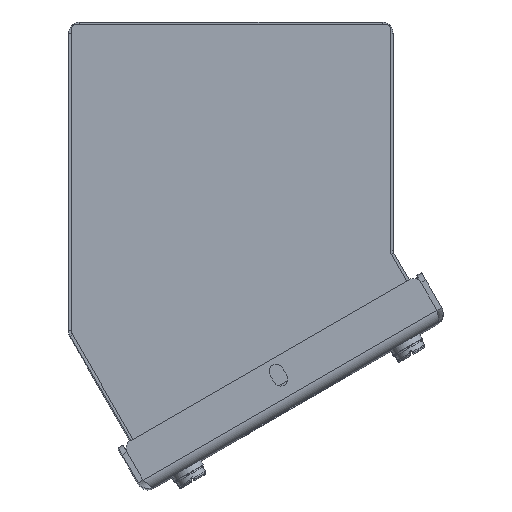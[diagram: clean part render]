
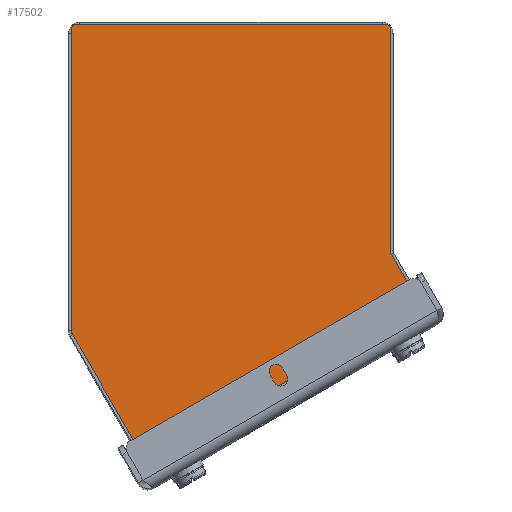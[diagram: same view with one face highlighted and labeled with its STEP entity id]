
A CAD part, top view. The second image highlights one B-rep face of the part: STEP entity #17502.
In plain terms, the highlighted planar face has unit normal (0, 0, 1) as drawn and (0, 1, 0) by its records, which use the part's own axes.
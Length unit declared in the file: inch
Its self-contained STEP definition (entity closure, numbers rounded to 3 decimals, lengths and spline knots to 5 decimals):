
#16811=CARTESIAN_POINT('',(1.695,2.5003,4.96256));
#16812=DIRECTION('',(0.,1.,0.));
#16813=DIRECTION('',(1.,0.,0.));
#16814=AXIS2_PLACEMENT_3D('',#16811,#16812,#16813);
#16819=DIRECTION('',(0.5,0.,0.866));
#16820=VECTOR('',#16819,0.69217);
#16821=CARTESIAN_POINT('',(1.74036,2.5003,7.41018));
#16822=LINE('',#16821,#16820);
#16826=CARTESIAN_POINT('',(2.0518,2.5003,8.02962));
#16827=DIRECTION('',(0.,1.,0.));
#16828=DIRECTION('',(0.5,0.,0.866));
#16829=AXIS2_PLACEMENT_3D('',#16826,#16827,#16828);
#16834=DIRECTION('',(0.5,0.,0.866));
#16835=VECTOR('',#16834,0.09);
#16836=CARTESIAN_POINT('',(1.43704,2.5003,8.32682));
#16837=LINE('',#16836,#16835);
#16841=DIRECTION('',(0.5,0.,0.866));
#16842=VECTOR('',#16841,0.09);
#16843=CARTESIAN_POINT('',(-0.29573,2.5003,9.32723));
#16844=LINE('',#16843,#16842);
#16848=CARTESIAN_POINT('',(-0.86049,2.5003,9.71103));
#16849=DIRECTION('',(0.,1.,0.));
#16850=DIRECTION('',(-0.866,0.,0.5));
#16851=AXIS2_PLACEMENT_3D('',#16848,#16849,#16850);
#16856=DIRECTION('',(0.5,0.,0.866));
#16857=VECTOR('',#16856,1.66902);
#16858=CARTESIAN_POINT('',(-1.72964,2.5003,8.28562));
#16859=LINE('',#16858,#16857);
#16863=CARTESIAN_POINT('',(-1.695,2.5003,8.26562));
#16864=DIRECTION('',(0.,1.,0.));
#16865=DIRECTION('',(-1.,0.,0.));
#16866=AXIS2_PLACEMENT_3D('',#16863,#16864,#16865);
#16871=CARTESIAN_POINT('',(-1.695,2.5003,4.96256));
#16872=DIRECTION('',(0.,1.,0.));
#16873=DIRECTION('',(0.,0.,-1.));
#16874=AXIS2_PLACEMENT_3D('',#16871,#16872,#16873);
#16879=DIRECTION('',(1.,0.,0.));
#16880=VECTOR('',#16879,3.39);
#16881=CARTESIAN_POINT('',(-1.695,2.5003,4.92256));
#16882=LINE('',#16881,#16880);
#16907=DIRECTION('',(0.,0.,1.));
#16908=VECTOR('',#16907,3.30306);
#16909=CARTESIAN_POINT('',(-1.735,2.5003,4.96256));
#16910=LINE('',#16909,#16908);
#16949=DIRECTION('',(0.866,0.,-0.5));
#16950=VECTOR('',#16949,0.681);
#16951=CARTESIAN_POINT('',(-0.84049,2.5003,9.74567));
#16952=LINE('',#16951,#16950);
#17008=DIRECTION('',(-0.866,0.,0.5));
#17009=VECTOR('',#17008,2.00083);
#17010=CARTESIAN_POINT('',(1.43704,2.5003,8.32682));
#17011=LINE('',#17010,#17009);
#17192=DIRECTION('',(0.866,0.,-0.5));
#17193=VECTOR('',#17192,0.681);
#17194=CARTESIAN_POINT('',(1.48204,2.5003,8.40476));
#17195=LINE('',#17194,#17193);
#17213=CARTESIAN_POINT('',(1.775,2.5003,7.39018));
#17214=DIRECTION('',(0.,-1.,0.));
#17215=DIRECTION('',(-0.866,0.,0.5));
#17216=AXIS2_PLACEMENT_3D('',#17213,#17214,#17215);
#17250=DIRECTION('',(0.,0.,-1.));
#17251=VECTOR('',#17250,2.42762);
#17252=CARTESIAN_POINT('',(1.735,2.5003,7.39018));
#17253=LINE('',#17252,#17251);
#17379=CARTESIAN_POINT('',(1.43704,2.5003,8.32682));
#17380=CARTESIAN_POINT('',(-0.29573,2.5003,9.32723));
#17381=VERTEX_POINT('',#17379);
#17382=VERTEX_POINT('',#17380);
#17383=CARTESIAN_POINT('',(-0.25073,2.5003,9.40517));
#17384=VERTEX_POINT('',#17383);
#17387=CARTESIAN_POINT('',(1.48204,2.5003,8.40476));
#17388=VERTEX_POINT('',#17387);
#17415=CARTESIAN_POINT('',(1.74036,2.5003,7.41018));
#17417=VERTEX_POINT('',#17415);
#17419=CARTESIAN_POINT('',(1.735,2.5003,7.39018));
#17421=VERTEX_POINT('',#17419);
#17423=CARTESIAN_POINT('',(1.735,2.5003,4.96256));
#17424=CARTESIAN_POINT('',(1.695,2.5003,4.92256));
#17425=VERTEX_POINT('',#17423);
#17426=VERTEX_POINT('',#17424);
#17431=CARTESIAN_POINT('',(-1.695,2.5003,4.92256));
#17432=CARTESIAN_POINT('',(-1.735,2.5003,4.96256));
#17433=VERTEX_POINT('',#17431);
#17434=VERTEX_POINT('',#17432);
#17439=CARTESIAN_POINT('',(2.0718,2.5003,8.06426));
#17440=CARTESIAN_POINT('',(2.08644,2.5003,8.00962));
#17441=VERTEX_POINT('',#17439);
#17442=VERTEX_POINT('',#17440);
#17447=CARTESIAN_POINT('',(-1.735,2.5003,8.26562));
#17448=CARTESIAN_POINT('',(-1.72964,2.5003,8.28562));
#17449=VERTEX_POINT('',#17447);
#17450=VERTEX_POINT('',#17448);
#17455=CARTESIAN_POINT('',(-0.89513,2.5003,9.73103));
#17456=VERTEX_POINT('',#17455);
#17459=CARTESIAN_POINT('',(-0.84049,2.5003,9.74567));
#17460=VERTEX_POINT('',#17459);
#17463=CARTESIAN_POINT('',(0.,2.5003,7.39286));
#17464=DIRECTION('',(0.,1.,0.));
#17465=DIRECTION('',(1.,0.,0.));
#17466=AXIS2_PLACEMENT_3D('',#17463,#17464,#17465);
#17467=PLANE('',#17466);
#17469=ORIENTED_EDGE('',*,*,#17468,.F.);
#17471=ORIENTED_EDGE('',*,*,#17470,.F.);
#17473=ORIENTED_EDGE('',*,*,#17472,.F.);
#17475=ORIENTED_EDGE('',*,*,#17474,.T.);
#17477=ORIENTED_EDGE('',*,*,#17476,.F.);
#17479=ORIENTED_EDGE('',*,*,#17478,.F.);
#17481=ORIENTED_EDGE('',*,*,#17480,.F.);
#17483=ORIENTED_EDGE('',*,*,#17482,.T.);
#17485=ORIENTED_EDGE('',*,*,#17484,.T.);
#17487=ORIENTED_EDGE('',*,*,#17486,.F.);
#17489=ORIENTED_EDGE('',*,*,#17488,.F.);
#17491=ORIENTED_EDGE('',*,*,#17490,.F.);
#17493=ORIENTED_EDGE('',*,*,#17492,.F.);
#17495=ORIENTED_EDGE('',*,*,#17494,.F.);
#17497=ORIENTED_EDGE('',*,*,#17496,.F.);
#17499=ORIENTED_EDGE('',*,*,#17498,.T.);
#17500=EDGE_LOOP('',(#17469,#17471,#17473,#17475,#17477,#17479,#17481,#17483,
#17485,#17487,#17489,#17491,#17493,#17495,#17497,#17499));
#17501=FACE_OUTER_BOUND('',#17500,.F.);
#16815=CIRCLE('',#16814,0.04);
#16830=CIRCLE('',#16829,0.04);
#16852=CIRCLE('',#16851,0.04);
#16867=CIRCLE('',#16866,0.04);
#16875=CIRCLE('',#16874,0.04);
#17217=CIRCLE('',#17216,0.04);
#17468=EDGE_CURVE('',#17425,#17426,#16815,.T.);
#17470=EDGE_CURVE('',#17421,#17425,#17253,.T.);
#17472=EDGE_CURVE('',#17417,#17421,#17217,.T.);
#17474=EDGE_CURVE('',#17417,#17442,#16822,.T.);
#17476=EDGE_CURVE('',#17441,#17442,#16830,.T.);
#17478=EDGE_CURVE('',#17388,#17441,#17195,.T.);
#17480=EDGE_CURVE('',#17381,#17388,#16837,.T.);
#17482=EDGE_CURVE('',#17381,#17382,#17011,.T.);
#17484=EDGE_CURVE('',#17382,#17384,#16844,.T.);
#17486=EDGE_CURVE('',#17460,#17384,#16952,.T.);
#17488=EDGE_CURVE('',#17456,#17460,#16852,.T.);
#17490=EDGE_CURVE('',#17450,#17456,#16859,.T.);
#17492=EDGE_CURVE('',#17449,#17450,#16867,.T.);
#17494=EDGE_CURVE('',#17434,#17449,#16910,.T.);
#17496=EDGE_CURVE('',#17433,#17434,#16875,.T.);
#17498=EDGE_CURVE('',#17433,#17426,#16882,.T.);
#17502=ADVANCED_FACE('',(#17501),#17467,.T.);
